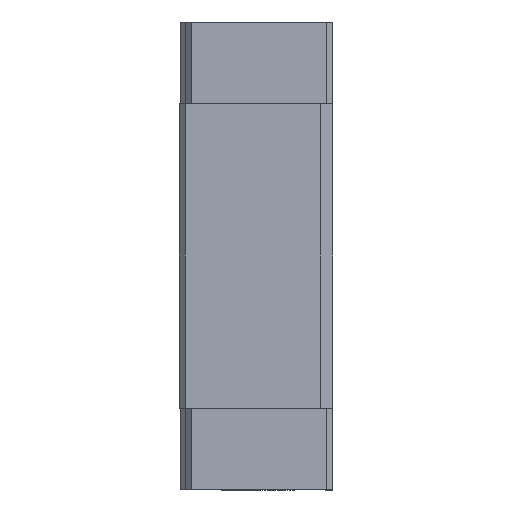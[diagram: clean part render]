
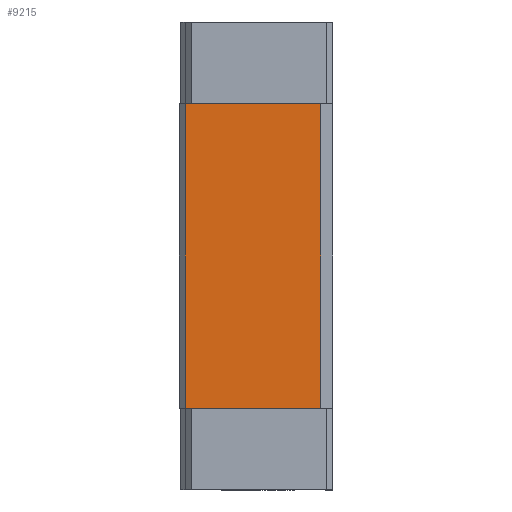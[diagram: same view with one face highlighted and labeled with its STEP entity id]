
A CAD part, left-side view. The second image highlights one B-rep face of the part: STEP entity #9215.
In plain terms, the highlighted planar face has unit normal (-1, 0, 0).
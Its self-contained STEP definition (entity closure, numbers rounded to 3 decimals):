
#523 = VECTOR ( 'NONE', #5376, 1000. ) ;
#1340 = VECTOR ( 'NONE', #4059, 1000. ) ;
#1367 = LINE ( 'NONE', #2577, #1340 ) ;
#1478 = CARTESIAN_POINT ( 'NONE',  ( -22., -10.9, -25.25 ) ) ;
#1642 = CARTESIAN_POINT ( 'NONE',  ( -22., -10.9, 25.25 ) ) ;
#1947 = DIRECTION ( 'NONE',  ( 0., 0., -1. ) ) ;
#2012 = CARTESIAN_POINT ( 'NONE',  ( -22., -10.9, 25.25 ) ) ;
#2411 = LINE ( 'NONE', #4125, #523 ) ;
#2577 = CARTESIAN_POINT ( 'NONE',  ( -22., -12.9, -25.25 ) ) ;
#2829 = EDGE_CURVE ( 'NONE', #3642, #7795, #2411, .T. ) ;
#2873 = ORIENTED_EDGE ( 'NONE', *, *, #2829, .T. ) ;
#2953 = VERTEX_POINT ( 'NONE', #7504 ) ;
#3102 = ORIENTED_EDGE ( 'NONE', *, *, #7787, .T. ) ;
#3330 = EDGE_CURVE ( 'NONE', #7795, #2953, #6981, .T. ) ;
#3642 = VERTEX_POINT ( 'NONE', #1642 ) ;
#3819 = DIRECTION ( 'NONE',  ( 1., 0., 0. ) ) ;
#4059 = DIRECTION ( 'NONE',  ( 0., -1., 0. ) ) ;
#4122 = VECTOR ( 'NONE', #1947, 1000. ) ;
#4125 = CARTESIAN_POINT ( 'NONE',  ( -22., 12., 25.25 ) ) ;
#4833 = DIRECTION ( 'NONE',  ( 0., 0., -1. ) ) ;
#5241 = ORIENTED_EDGE ( 'NONE', *, *, #6043, .F. ) ;
#5376 = DIRECTION ( 'NONE',  ( 0., 1., 0. ) ) ;
#5412 = VECTOR ( 'NONE', #4833, 1000. ) ;
#5557 = CARTESIAN_POINT ( 'NONE',  ( -22., 11.5, 25.25 ) ) ;
#5778 = CARTESIAN_POINT ( 'NONE',  ( -22., 11.5, 0. ) ) ;
#5834 = LINE ( 'NONE', #2012, #4122 ) ;
#5963 = CARTESIAN_POINT ( 'NONE',  ( -22., 0., 0. ) ) ;
#6043 = EDGE_CURVE ( 'NONE', #3642, #7936, #5834, .T. ) ;
#6102 = ORIENTED_EDGE ( 'NONE', *, *, #3330, .T. ) ;
#6355 = AXIS2_PLACEMENT_3D ( 'NONE', #5963, #3819, #8622 ) ;
#6615 = PLANE ( 'NONE',  #6355 ) ;
#6981 = LINE ( 'NONE', #5778, #5412 ) ;
#7202 = FACE_OUTER_BOUND ( 'NONE', #7516, .T. ) ;
#7504 = CARTESIAN_POINT ( 'NONE',  ( -22., 11.5, -25.25 ) ) ;
#7516 = EDGE_LOOP ( 'NONE', ( #2873, #6102, #3102, #5241 ) ) ;
#7787 = EDGE_CURVE ( 'NONE', #2953, #7936, #1367, .T. ) ;
#7795 = VERTEX_POINT ( 'NONE', #5557 ) ;
#7936 = VERTEX_POINT ( 'NONE', #1478 ) ;
#8622 = DIRECTION ( 'NONE',  ( 0., 0., -1. ) ) ;
#9215 = ADVANCED_FACE ( 'NONE', ( #7202 ), #6615, .F. ) ;
